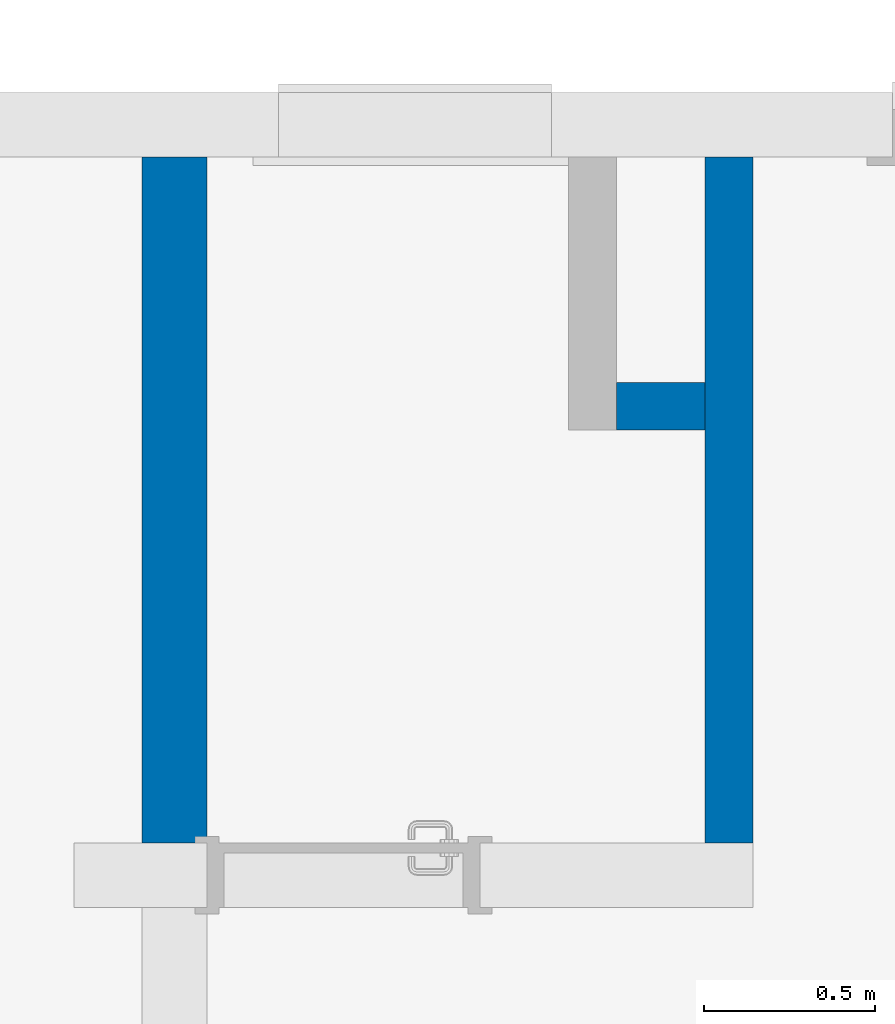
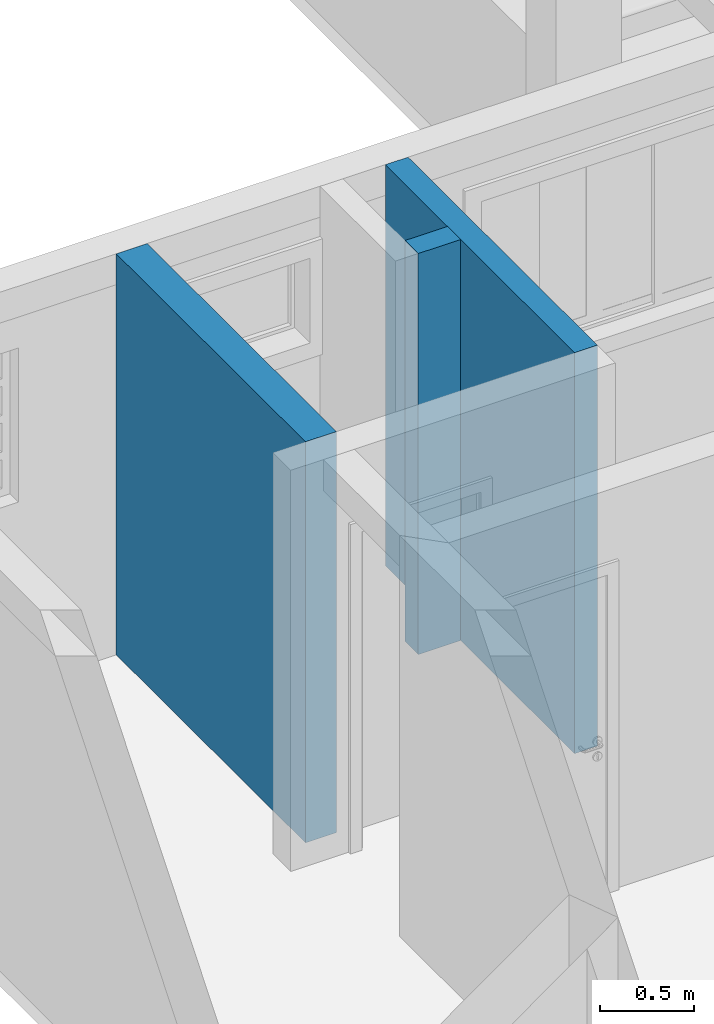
# One storey, part 11 of 47: 3 walls.
"""IFC2X3 building model written with IfcOpenShell, lengths in millimetres."""

import ifcopenshell
import ifcopenshell.guid

model = None  # the IFC model being written
_history = None  # IfcOwnerHistory: only IFC2X3 demands one
_inside = {}  # id of a spatial element -> (the spatial element, [elements in it])
_under = {}  # id of a project, library or spatial element -> (it, [spatial elements below it])
_declared = {}  # id of a project -> (the project, [libraries it declares])
_typed = {}  # id of a type object -> (the type object, [elements of that type])
_made_of = {}  # id of a material, layer set ... -> (it, [elements and type objects made of it])


def new_model(schema):
    """Start an empty IFC model of exactly this schema.

    Asked for "IFC4X3", IfcOpenShell would pick the latest addendum, in which some entities
    have other attributes; the version numbers below select the first issue.
    IFC2X3 requires an IfcOwnerHistory on every rooted entity: one is made here for all.
    """
    global model, _history
    if schema == "IFC4X3":
        model = ifcopenshell.file(schema_version=(4, 3, 0, 0))
    else:
        model = ifcopenshell.file(schema=schema)
    _inside.clear()
    _under.clear()
    _declared.clear()
    _typed.clear()
    _made_of.clear()
    _history = None
    if model.schema == "IFC2X3":
        org = make("IfcOrganization", Name="unknown")
        user = make(
            "IfcPersonAndOrganization",
            ThePerson=make("IfcPerson", FamilyName="unknown"),
            TheOrganization=org,
        )
        app = make(
            "IfcApplication",
            ApplicationDeveloper=org,
            Version="unknown",
            ApplicationFullName="unknown",
            ApplicationIdentifier="unknown",
        )
        _history = make(
            "IfcOwnerHistory",
            OwningUser=user,
            OwningApplication=app,
            ChangeAction="ADDED",
            CreationDate=0,
        )
    return model


def make(cls, **values):
    """One entity of the class cls with the attributes given. An attribute that is None is left unset."""
    return model.create_entity(
        cls, **{name: value for name, value in values.items() if value is not None}
    )


def entity(cls, *values):
    """Any entity or typed value of the class cls, its attributes in the order of the schema. None: left unset."""
    e = model.create_entity(cls)
    for i, value in enumerate(values):
        if value is not None:
            e[i] = value
    return e


def rooted(cls, **values):
    """An entity with a GlobalId (a new one), such as an element, a storey or a relation."""
    return make(cls, GlobalId=ifcopenshell.guid.new(), OwnerHistory=_history, **values)


def si_unit(unit_type, name, prefix=None):
    """IfcSIUnit, for example si_unit("LENGTHUNIT", "METRE", prefix="MILLI")."""
    return make("IfcSIUnit", UnitType=unit_type, Prefix=prefix, Name=name)


def converted_unit(unit_type, name, factor, base, dimensions=None, offset=None):
    """IfcConversionBasedUnit, such as the inch: factor (a typed value) times the base unit."""
    return make(
        "IfcConversionBasedUnit"
        if offset is None
        else "IfcConversionBasedUnitWithOffset",
        ConversionOffset=offset,
        Dimensions=None
        if dimensions is None
        else entity("IfcDimensionalExponents", *dimensions),
        UnitType=unit_type,
        Name=name,
        ConversionFactor=make(
            "IfcMeasureWithUnit", ValueComponent=factor, UnitComponent=base
        ),
    )


def derived_unit(unit_type, elements):
    """IfcDerivedUnit: a product of units, each with its exponent."""
    return make(
        "IfcDerivedUnit",
        Elements=[
            make("IfcDerivedUnitElement", Unit=unit, Exponent=power)
            for unit, power in elements
        ],
        UnitType=unit_type,
    )


def money_unit(currency):
    """IfcMonetaryUnit."""
    return make("IfcMonetaryUnit", Currency=currency)


def assignment(units):
    """IfcUnitAssignment: the units of a project."""
    return None if units is None else make("IfcUnitAssignment", Units=units)


def point(xyz):
    """IfcCartesianPoint."""
    return None if xyz is None else make("IfcCartesianPoint", Coordinates=xyz)


def direction(xyz):
    """IfcDirection."""
    return None if xyz is None else make("IfcDirection", DirectionRatios=xyz)


def frame(location, z_axis=None, x_axis=None):
    """IfcAxis2Placement3D, a coordinate frame: its origin and axes. An axis left out is left unset."""
    return make(
        "IfcAxis2Placement3D",
        Location=point(location),
        Axis=direction(z_axis),
        RefDirection=direction(x_axis),
    )


def origin_with_axes():
    """The frame at (0, 0, 0) with the z axis (0, 0, 1) and the x axis (1, 0, 0) written out."""
    return frame((0.0, 0.0, 0.0), z_axis=(0.0, 0.0, 1.0), x_axis=(1.0, 0.0, 0.0))


def place(relative_to, where):
    """IfcLocalPlacement: puts the frame where relative to a parent placement (None: the world)."""
    return make(
        "IfcLocalPlacement", PlacementRelTo=relative_to, RelativePlacement=where
    )


def context(
    kind, dimensions, precision=None, world=None, true_north=None, identifier=None
):
    """IfcGeometricRepresentationContext, for example the 3D "Model" context."""
    return make(
        "IfcGeometricRepresentationContext",
        ContextIdentifier=identifier,
        ContextType=kind,
        CoordinateSpaceDimension=dimensions,
        Precision=precision,
        WorldCoordinateSystem=world,
        TrueNorth=true_north,
    )


def subcontext(parent, identifier, kind, view, scale=None):
    """IfcGeometricRepresentationSubContext, for example "Body" below "Model"."""
    return make(
        "IfcGeometricRepresentationSubContext",
        ContextIdentifier=identifier,
        ContextType=kind,
        ParentContext=parent,
        TargetScale=scale,
        TargetView=view,
    )


def project(units=None, contexts=None):
    """IfcProject with its units and contexts."""
    return rooted(
        "IfcProject",
        Name="project",
        RepresentationContexts=contexts,
        UnitsInContext=assignment(units),
    )


def spatial(cls, under=None, at=None, **own):
    """A site, building, storey or space (cls), placed at a placement, below another one or the project."""
    s = rooted(cls, ObjectPlacement=at, **own)
    if under is not None:
        _under.setdefault(under.id(), (under, []))[1].append(s)
    return s


def polyline(points):
    """IfcPolyline through the points."""
    return make("IfcPolyline", Points=[point(p) for p in points])


def outline(outer, holes=None, kind="AREA"):
    """IfcArbitraryClosedProfileDef: a profile drawn as a closed curve; with holes, ...WithVoids."""
    if holes is None:
        return make("IfcArbitraryClosedProfileDef", ProfileType=kind, OuterCurve=outer)
    return make(
        "IfcArbitraryProfileDefWithVoids",
        ProfileType=kind,
        OuterCurve=outer,
        InnerCurves=holes,
    )


def extrude(swept, where, along, depth):
    """IfcExtrudedAreaSolid: the profile swept, set in the frame where, extruded along a direction by depth."""
    return make(
        "IfcExtrudedAreaSolid",
        SweptArea=swept,
        Position=where,
        ExtrudedDirection=direction(along),
        Depth=depth,
    )


def shape(context_of_items, identifier, shape_type, items):
    """IfcShapeRepresentation: the items that make up one representation, for example the "Body"."""
    return make(
        "IfcShapeRepresentation",
        ContextOfItems=context_of_items,
        RepresentationIdentifier=identifier,
        RepresentationType=shape_type,
        Items=items,
    )


def material(Name=None, Category=None):
    """IfcMaterial."""
    return make("IfcMaterial", Name=Name, Category=Category)


def layer(
    of_material, thickness, ventilated=None, Name=None, Category=None, Priority=None
):
    """IfcMaterialLayer: one layer of a wall or slab, of a material (None: an air gap)."""
    return make(
        "IfcMaterialLayer",
        Material=of_material,
        LayerThickness=thickness,
        IsVentilated=ventilated,
        Name=Name,
        Category=Category,
        Priority=Priority,
    )


def layer_set(layers, Name=None):
    """IfcMaterialLayerSet."""
    return make("IfcMaterialLayerSet", MaterialLayers=layers, LayerSetName=Name)


def layer_usage(for_layer_set, set_direction, sense, offset, extent=None):
    """IfcMaterialLayerSetUsage: how a layer set lies in its element."""
    return make(
        "IfcMaterialLayerSetUsage",
        ForLayerSet=for_layer_set,
        LayerSetDirection=set_direction,
        DirectionSense=sense,
        OffsetFromReferenceLine=offset,
        ReferenceExtent=extent,
    )


def made_of(thing, what):
    """Note that an element or type object is made of a material, layer set ...; save() writes the relation."""
    if what is not None:
        _made_of.setdefault(what.id(), (what, []))[1].append(thing)
    return thing


def type_object(cls, material=None, **own):
    """A type object (cls), such as IfcWallType, which elements share."""
    return made_of(rooted(cls, **own), material)


def element(
    cls,
    number,
    at=None,
    inside=None,
    cuts=None,
    type_object=None,
    material=None,
    context=None,
    identifier="Body",
    shape_type=None,
    held_by="IfcProductDefinitionShape",
    body=None,
    shapes=None,
    **own,
):
    """One element of the class cls, such as IfcWall. Its Tag is "e" and its number.

    at: its placement. inside: the storey or other place that contains it. cuts: it is an
    opening in that element (IfcRelVoidsElement). A single representation is given by context,
    identifier, shape_type and body (its items); several are given by shapes. held_by: the class
    of the entity that holds the representations. save() writes the other relations.
    """
    e = rooted(cls, Tag="e%d" % number, ObjectPlacement=at, **own)
    if body is not None:
        shapes = [shape(context, identifier, shape_type, body)]
    if shapes is not None:
        e.Representation = make(held_by, Representations=shapes)
    if inside is not None:
        _inside.setdefault(inside.id(), (inside, []))[1].append(e)
    if cuts is not None:
        rooted(
            "IfcRelVoidsElement", RelatingBuildingElement=cuts, RelatedOpeningElement=e
        )
    if type_object is not None:
        _typed.setdefault(type_object.id(), (type_object, []))[1].append(e)
    return made_of(e, material)


def aggregate(whole, parts):
    """IfcRelAggregates: a whole, such as a stair, and the parts it consists of."""
    return rooted("IfcRelAggregates", RelatingObject=whole, RelatedObjects=parts)


def save(model, path):
    """Write the relations noted so far, then the file.

    IfcRelAggregates (storeys below a building ...), IfcRelContainedInSpatialStructure (elements
    in a storey), IfcRelDefinesByType, IfcRelAssociatesMaterial and IfcRelDeclares: one each for
    every whole, place, type object, material and project.
    """
    for whole, parts in _under.values():
        aggregate(whole, parts)
    for where, things in _inside.values():
        rooted(
            "IfcRelContainedInSpatialStructure",
            RelatedElements=things,
            RelatingStructure=where,
        )
    for kind, things in _typed.values():
        rooted("IfcRelDefinesByType", RelatedObjects=things, RelatingType=kind)
    for what, things in _made_of.values():
        rooted("IfcRelAssociatesMaterial", RelatedObjects=things, RelatingMaterial=what)
    for by, libraries in _declared.values():
        rooted("IfcRelDeclares", RelatingContext=by, RelatedDefinitions=libraries)
    model.write(path)


model = new_model("IFC2X3")

# Units and contexts
model_context = context("Model", 3, precision=0.01, world=origin_with_axes(), true_north=direction((0.0, 1.0)))
body_context = subcontext(model_context, "Body", "Model", "MODEL_VIEW")
ifc_project = project(units=[si_unit("LENGTHUNIT", "METRE", prefix="MILLI"), si_unit("AREAUNIT", "SQUARE_METRE"), si_unit("VOLUMEUNIT", "CUBIC_METRE"), converted_unit("PLANEANGLEUNIT", "DEGREE", entity("IfcPlaneAngleMeasure", 0.0174532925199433), si_unit("PLANEANGLEUNIT", "RADIAN"), dimensions=[0, 0, 0, 0, 0, 0, 0]), money_unit("USD"), converted_unit("TIMEUNIT", "Year", entity("IfcTimeMeasure", 31557600.0), si_unit("TIMEUNIT", "SECOND"), dimensions=[0, 0, 1, 0, 0, 0, 0]), si_unit("MASSUNIT", "GRAM", prefix="KILO"), si_unit("THERMODYNAMICTEMPERATUREUNIT", "DEGREE_CELSIUS"), si_unit("LUMINOUSINTENSITYUNIT", "LUMEN"), si_unit("ENERGYUNIT", "JOULE", prefix="MEGA"), derived_unit("THERMALCONDUCTANCEUNIT", [(si_unit("POWERUNIT", "WATT"), 1), (si_unit("LENGTHUNIT", "METRE"), -1), (si_unit("THERMODYNAMICTEMPERATUREUNIT", "KELVIN"), -1)]), derived_unit("SPECIFICHEATCAPACITYUNIT", [(si_unit("ENERGYUNIT", "JOULE"), 1), (si_unit("MASSUNIT", "GRAM", prefix="KILO"), -1), (si_unit("THERMODYNAMICTEMPERATUREUNIT", "KELVIN"), -1)]), derived_unit("MASSDENSITYUNIT", [(si_unit("MASSUNIT", "GRAM", prefix="KILO"), 1), (si_unit("VOLUMEUNIT", "CUBIC_METRE"), -1)])], contexts=[model_context])

# Site, building, storey
site_placement = place(None, origin_with_axes())
site = spatial("IfcSite", under=ifc_project, at=site_placement, Name="Local", CompositionType="ELEMENT")
building_placement = place(site_placement, origin_with_axes())
building = spatial("IfcBuilding", under=site, at=building_placement, Name="Construção", CompositionType="ELEMENT")
storey_placement = place(building_placement, origin_with_axes())
storey = spatial("IfcBuildingStorey", under=building, at=storey_placement, Name="Pavimento Tipo", CompositionType="ELEMENT", Elevation=0.0)

# Walls
ifc_material_1 = material(Name="Concreto - Estrutural")
ifc_layer_1 = layer(ifc_material_1, 190.0, ventilated="UNKNOWN")
ifc_layer_set_1 = layer_set([ifc_layer_1], Name="Concreto - Estrutural 190")
ifc_layer_usage_1 = layer_usage(ifc_layer_set_1, "AXIS2", "NEGATIVE", 190.0)
wall_type_1 = type_object("IfcWallType", Name="Concreto - Estrutural 190", PredefinedType="NOTDEFINED")
wall_1_placement = place(storey_placement, frame((-4547.433002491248, 4996.981417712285, 0.0), z_axis=(0.0, 0.0, 1.0), x_axis=(0.0, -1.0, 0.0)))
element("IfcWallStandardCase", 1, at=wall_1_placement, inside=storey, type_object=wall_type_1, material=ifc_layer_usage_1, Name="Apartamento 3 - Parede-091", context=body_context, shape_type="SweptSolid", body=[
    extrude(outline(polyline([(0.0, 0.0), (2010.000000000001, 0.0), (2010.000000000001, 190.0000000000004), (0.0, 190.0000000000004), (0.0, 0.0)])), origin_with_axes(), (0.0, 0.0, 1.0), 2600.0),
])
ifc_material_2 = material(Name="Concreto")
ifc_layer_2 = layer(ifc_material_2, 140.0, ventilated="UNKNOWN")
ifc_layer_set_2 = layer_set([ifc_layer_2], Name="Concreto 140")
ifc_layer_usage_2 = layer_usage(ifc_layer_set_2, "AXIS2", "NEGATIVE", 140.0)
wall_type_2 = type_object("IfcWallType", Name="Concreto 140", PredefinedType="NOTDEFINED")
wall_2_placement = place(storey_placement, frame((-2897.433002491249, 4996.981417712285, 0.0), z_axis=(0.0, 0.0, 1.0), x_axis=(0.0, -1.0, 0.0)))
element("IfcWallStandardCase", 2, at=wall_2_placement, inside=storey, type_object=wall_type_2, material=ifc_layer_usage_2, Name="Apartamento 3 - Parede-094", context=body_context, shape_type="SweptSolid", body=[
    extrude(outline(polyline([(0.0, 0.0), (2010.000000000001, 0.0), (2010.000000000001, 140.0000000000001), (0.0, 140.0000000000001), (0.0, 0.0)])), origin_with_axes(), (0.0, 0.0, 1.0), 2600.0),
])
ifc_layer_usage_3 = layer_usage(ifc_layer_set_2, "AXIS2", "NEGATIVE", 140.0)
wall_3_placement = place(storey_placement, frame((-3157.433002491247, 4196.981417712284, 0.0), z_axis=(0.0, 0.0, 1.0), x_axis=(1.0, 0.0, 0.0)))
element("IfcWallStandardCase", 3, at=wall_3_placement, inside=storey, type_object=wall_type_2, material=ifc_layer_usage_3, Name="Apartamento 3 - Parede-097", context=body_context, shape_type="SweptSolid", body=[
    extrude(outline(polyline([(0.0, 0.0), (259.999999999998, 0.0), (259.999999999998, 139.9999999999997), (0.0, 139.9999999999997), (0.0, 0.0)])), origin_with_axes(), (0.0, 0.0, 1.0), 2600.0),
])

save(model, "model.ifc")
